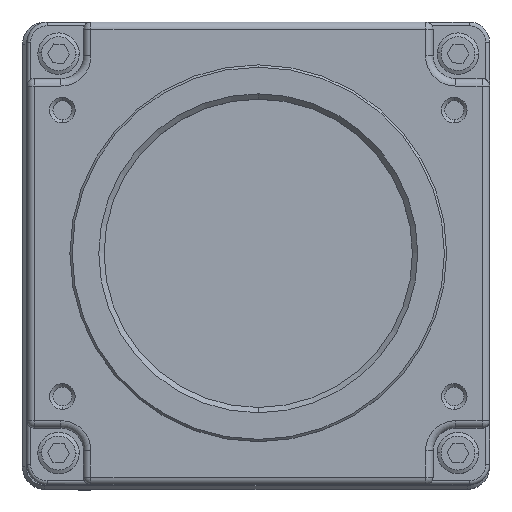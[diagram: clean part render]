
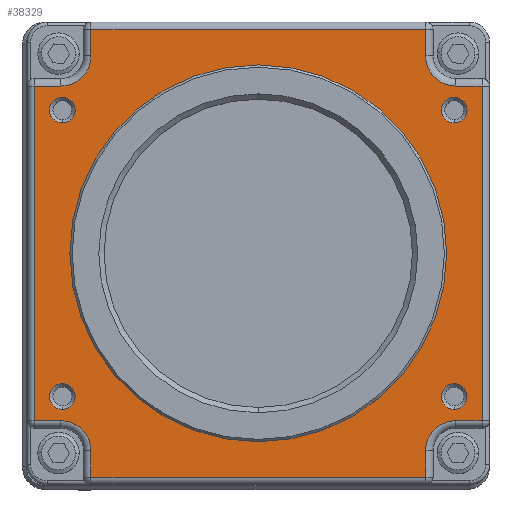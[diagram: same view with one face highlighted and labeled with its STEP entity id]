
A CAD part, top view. The second image highlights one B-rep face of the part: STEP entity #38329.
In plain terms, the highlighted planar face has unit normal (0, 0, 1).
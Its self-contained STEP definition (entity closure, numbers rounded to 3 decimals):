
#3109=CARTESIAN_POINT('',(4.8,4.8,22.3));
#3110=DIRECTION('',(0.,0.,-1.));
#3111=DIRECTION('',(0.,1.,0.));
#3112=AXIS2_PLACEMENT_3D('',#3109,#3110,#3111);
#3114=CARTESIAN_POINT('',(4.8,57.2,22.3));
#3115=DIRECTION('',(0.,0.,-1.));
#3116=DIRECTION('',(1.,0.,0.));
#3117=AXIS2_PLACEMENT_3D('',#3114,#3115,#3116);
#3119=CARTESIAN_POINT('',(57.2,57.2,22.3));
#3120=DIRECTION('',(0.,0.,-1.));
#3121=DIRECTION('',(0.,-1.,0.));
#3122=AXIS2_PLACEMENT_3D('',#3119,#3120,#3121);
#3124=CARTESIAN_POINT('',(57.2,4.8,22.3));
#3125=DIRECTION('',(0.,0.,-1.));
#3126=DIRECTION('',(-1.,0.,0.));
#3127=AXIS2_PLACEMENT_3D('',#3124,#3125,#3126);
#3129=CARTESIAN_POINT('',(31.,31.,22.3));
#3130=DIRECTION('',(0.,0.,-1.));
#3131=DIRECTION('',(0.,1.,0.));
#3132=AXIS2_PLACEMENT_3D('',#3129,#3130,#3131);
#3134=CARTESIAN_POINT('',(31.,31.,22.3));
#3135=DIRECTION('',(0.,0.,-1.));
#3136=DIRECTION('',(0.,-1.,0.));
#3137=AXIS2_PLACEMENT_3D('',#3134,#3135,#3136);
#3139=CARTESIAN_POINT('',(5.,50.,22.3));
#3140=DIRECTION('',(0.,0.,-1.));
#3141=DIRECTION('',(0.,1.,0.));
#3142=AXIS2_PLACEMENT_3D('',#3139,#3140,#3141);
#3144=CARTESIAN_POINT('',(5.,50.,22.3));
#3145=DIRECTION('',(0.,0.,-1.));
#3146=DIRECTION('',(0.,-1.,0.));
#3147=AXIS2_PLACEMENT_3D('',#3144,#3145,#3146);
#3149=CARTESIAN_POINT('',(5.,12.,22.3));
#3150=DIRECTION('',(0.,0.,-1.));
#3151=DIRECTION('',(0.,1.,0.));
#3152=AXIS2_PLACEMENT_3D('',#3149,#3150,#3151);
#3154=CARTESIAN_POINT('',(5.,12.,22.3));
#3155=DIRECTION('',(0.,0.,-1.));
#3156=DIRECTION('',(0.,-1.,0.));
#3157=AXIS2_PLACEMENT_3D('',#3154,#3155,#3156);
#3159=CARTESIAN_POINT('',(57.,50.,22.3));
#3160=DIRECTION('',(0.,0.,-1.));
#3161=DIRECTION('',(0.,-1.,0.));
#3162=AXIS2_PLACEMENT_3D('',#3159,#3160,#3161);
#3164=CARTESIAN_POINT('',(57.,50.,22.3));
#3165=DIRECTION('',(0.,0.,-1.));
#3166=DIRECTION('',(0.,1.,0.));
#3167=AXIS2_PLACEMENT_3D('',#3164,#3165,#3166);
#3169=CARTESIAN_POINT('',(57.,12.,22.3));
#3170=DIRECTION('',(0.,0.,-1.));
#3171=DIRECTION('',(0.,-1.,0.));
#3172=AXIS2_PLACEMENT_3D('',#3169,#3170,#3171);
#3174=CARTESIAN_POINT('',(57.,12.,22.3));
#3175=DIRECTION('',(0.,0.,-1.));
#3176=DIRECTION('',(0.,1.,0.));
#3177=AXIS2_PLACEMENT_3D('',#3174,#3175,#3176);
#3179=DIRECTION('',(1.,0.,0.));
#3180=VECTOR('',#3179,44.4);
#3181=CARTESIAN_POINT('',(8.8,1.3,22.3));
#3182=LINE('',#3181,#3180);
#3298=DIRECTION('',(1.,0.,0.));
#3299=VECTOR('',#3298,3.5);
#3300=CARTESIAN_POINT('',(57.2,8.8,22.3));
#3301=LINE('',#3300,#3299);
#3317=DIRECTION('',(0.,1.,0.));
#3318=VECTOR('',#3317,44.4);
#3319=CARTESIAN_POINT('',(60.7,8.8,22.3));
#3320=LINE('',#3319,#3318);
#3340=DIRECTION('',(-1.,0.,0.));
#3341=VECTOR('',#3340,3.5);
#3342=CARTESIAN_POINT('',(60.7,53.2,22.3));
#3343=LINE('',#3342,#3341);
#3367=DIRECTION('',(0.,1.,0.));
#3368=VECTOR('',#3367,3.5);
#3369=CARTESIAN_POINT('',(53.2,57.2,22.3));
#3370=LINE('',#3369,#3368);
#3596=DIRECTION('',(-1.,0.,0.));
#3597=VECTOR('',#3596,44.4);
#3598=CARTESIAN_POINT('',(53.2,60.7,22.3));
#3599=LINE('',#3598,#3597);
#3619=DIRECTION('',(0.,-1.,0.));
#3620=VECTOR('',#3619,3.5);
#3621=CARTESIAN_POINT('',(8.8,60.7,22.3));
#3622=LINE('',#3621,#3620);
#3680=DIRECTION('',(0.,1.,0.));
#3681=VECTOR('',#3680,3.5);
#3682=CARTESIAN_POINT('',(53.2,1.3,22.3));
#3683=LINE('',#3682,#3681);
#3835=DIRECTION('',(0.,-1.,0.));
#3836=VECTOR('',#3835,3.5);
#3837=CARTESIAN_POINT('',(8.8,4.8,22.3));
#3838=LINE('',#3837,#3836);
#3854=DIRECTION('',(1.,0.,0.));
#3855=VECTOR('',#3854,3.5);
#3856=CARTESIAN_POINT('',(1.3,8.8,22.3));
#3857=LINE('',#3856,#3855);
#3910=DIRECTION('',(0.,-1.,0.));
#3911=VECTOR('',#3910,44.4);
#3912=CARTESIAN_POINT('',(1.3,53.2,22.3));
#3913=LINE('',#3912,#3911);
#3937=DIRECTION('',(-1.,0.,0.));
#3938=VECTOR('',#3937,3.5);
#3939=CARTESIAN_POINT('',(4.8,53.2,22.3));
#3940=LINE('',#3939,#3938);
#29419=CARTESIAN_POINT('',(31.,6.,22.3));
#29420=VERTEX_POINT('',#29419);
#29421=CARTESIAN_POINT('',(31.,56.,22.3));
#29422=VERTEX_POINT('',#29421);
#29423=CARTESIAN_POINT('',(8.8,1.3,22.3));
#29424=CARTESIAN_POINT('',(53.2,1.3,22.3));
#29425=VERTEX_POINT('',#29423);
#29426=VERTEX_POINT('',#29424);
#29427=CARTESIAN_POINT('',(8.8,4.8,22.3));
#29428=VERTEX_POINT('',#29427);
#29429=CARTESIAN_POINT('',(4.8,8.8,22.3));
#29430=VERTEX_POINT('',#29429);
#29431=CARTESIAN_POINT('',(1.3,8.8,22.3));
#29432=VERTEX_POINT('',#29431);
#29433=CARTESIAN_POINT('',(1.3,53.2,22.3));
#29434=VERTEX_POINT('',#29433);
#29435=CARTESIAN_POINT('',(4.8,53.2,22.3));
#29436=VERTEX_POINT('',#29435);
#29437=CARTESIAN_POINT('',(8.8,57.2,22.3));
#29438=VERTEX_POINT('',#29437);
#29439=CARTESIAN_POINT('',(8.8,60.7,22.3));
#29440=VERTEX_POINT('',#29439);
#29441=CARTESIAN_POINT('',(53.2,60.7,22.3));
#29442=VERTEX_POINT('',#29441);
#29443=CARTESIAN_POINT('',(53.2,57.2,22.3));
#29444=VERTEX_POINT('',#29443);
#29445=CARTESIAN_POINT('',(57.2,53.2,22.3));
#29446=VERTEX_POINT('',#29445);
#29447=CARTESIAN_POINT('',(60.7,53.2,22.3));
#29448=VERTEX_POINT('',#29447);
#29449=CARTESIAN_POINT('',(60.7,8.8,22.3));
#29450=VERTEX_POINT('',#29449);
#29451=CARTESIAN_POINT('',(57.2,8.8,22.3));
#29452=VERTEX_POINT('',#29451);
#29453=CARTESIAN_POINT('',(53.2,4.8,22.3));
#29454=VERTEX_POINT('',#29453);
#29455=CARTESIAN_POINT('',(5.,51.7,22.3));
#29456=CARTESIAN_POINT('',(5.,48.3,22.3));
#29457=VERTEX_POINT('',#29455);
#29458=VERTEX_POINT('',#29456);
#29459=CARTESIAN_POINT('',(5.,13.7,22.3));
#29460=CARTESIAN_POINT('',(5.,10.3,22.3));
#29461=VERTEX_POINT('',#29459);
#29462=VERTEX_POINT('',#29460);
#29463=CARTESIAN_POINT('',(57.,48.3,22.3));
#29464=CARTESIAN_POINT('',(57.,51.7,22.3));
#29465=VERTEX_POINT('',#29463);
#29466=VERTEX_POINT('',#29464);
#29467=CARTESIAN_POINT('',(57.,10.3,22.3));
#29468=CARTESIAN_POINT('',(57.,13.7,22.3));
#29469=VERTEX_POINT('',#29467);
#29470=VERTEX_POINT('',#29468);
#38261=CARTESIAN_POINT('',(31.,31.,22.3));
#38262=DIRECTION('',(0.,0.,1.));
#38263=DIRECTION('',(0.,1.,0.));
#38264=AXIS2_PLACEMENT_3D('',#38261,#38262,#38263);
#38265=PLANE('',#38264);
#38267=ORIENTED_EDGE('',*,*,#38266,.F.);
#38269=ORIENTED_EDGE('',*,*,#38268,.F.);
#38271=ORIENTED_EDGE('',*,*,#38270,.F.);
#38273=ORIENTED_EDGE('',*,*,#38272,.F.);
#38275=ORIENTED_EDGE('',*,*,#38274,.F.);
#38277=ORIENTED_EDGE('',*,*,#38276,.F.);
#38278=ORIENTED_EDGE('',*,*,#38244,.F.);
#38280=ORIENTED_EDGE('',*,*,#38279,.F.);
#38282=ORIENTED_EDGE('',*,*,#38281,.F.);
#38284=ORIENTED_EDGE('',*,*,#38283,.F.);
#38286=ORIENTED_EDGE('',*,*,#38285,.F.);
#38288=ORIENTED_EDGE('',*,*,#38287,.F.);
#38290=ORIENTED_EDGE('',*,*,#38289,.F.);
#38292=ORIENTED_EDGE('',*,*,#38291,.F.);
#38294=ORIENTED_EDGE('',*,*,#38293,.F.);
#38296=ORIENTED_EDGE('',*,*,#38295,.F.);
#38297=EDGE_LOOP('',(#38267,#38269,#38271,#38273,#38275,#38277,#38278,#38280,
#38282,#38284,#38286,#38288,#38290,#38292,#38294,#38296));
#38298=FACE_OUTER_BOUND('',#38297,.F.);
#38300=ORIENTED_EDGE('',*,*,#38299,.F.);
#38302=ORIENTED_EDGE('',*,*,#38301,.F.);
#38303=EDGE_LOOP('',(#38300,#38302));
#38304=FACE_BOUND('',#38303,.F.);
#38306=ORIENTED_EDGE('',*,*,#38305,.F.);
#38308=ORIENTED_EDGE('',*,*,#38307,.F.);
#38309=EDGE_LOOP('',(#38306,#38308));
#38310=FACE_BOUND('',#38309,.F.);
#38312=ORIENTED_EDGE('',*,*,#38311,.F.);
#38314=ORIENTED_EDGE('',*,*,#38313,.F.);
#38315=EDGE_LOOP('',(#38312,#38314));
#38316=FACE_BOUND('',#38315,.F.);
#38318=ORIENTED_EDGE('',*,*,#38317,.F.);
#38320=ORIENTED_EDGE('',*,*,#38319,.F.);
#38321=EDGE_LOOP('',(#38318,#38320));
#38322=FACE_BOUND('',#38321,.F.);
#38324=ORIENTED_EDGE('',*,*,#38323,.F.);
#38326=ORIENTED_EDGE('',*,*,#38325,.F.);
#38327=EDGE_LOOP('',(#38324,#38326));
#38328=FACE_BOUND('',#38327,.F.);
#3113=CIRCLE('',#3112,4.);
#3118=CIRCLE('',#3117,4.);
#3123=CIRCLE('',#3122,4.);
#3128=CIRCLE('',#3127,4.);
#3133=CIRCLE('',#3132,25.);
#3138=CIRCLE('',#3137,25.);
#3143=CIRCLE('',#3142,1.7);
#3148=CIRCLE('',#3147,1.7);
#3153=CIRCLE('',#3152,1.7);
#3158=CIRCLE('',#3157,1.7);
#3163=CIRCLE('',#3162,1.7);
#3168=CIRCLE('',#3167,1.7);
#3173=CIRCLE('',#3172,1.7);
#3178=CIRCLE('',#3177,1.7);
#38244=EDGE_CURVE('',#29438,#29436,#3118,.T.);
#38266=EDGE_CURVE('',#29425,#29426,#3182,.T.);
#38268=EDGE_CURVE('',#29428,#29425,#3838,.T.);
#38270=EDGE_CURVE('',#29430,#29428,#3113,.T.);
#38272=EDGE_CURVE('',#29432,#29430,#3857,.T.);
#38274=EDGE_CURVE('',#29434,#29432,#3913,.T.);
#38276=EDGE_CURVE('',#29436,#29434,#3940,.T.);
#38279=EDGE_CURVE('',#29440,#29438,#3622,.T.);
#38281=EDGE_CURVE('',#29442,#29440,#3599,.T.);
#38283=EDGE_CURVE('',#29444,#29442,#3370,.T.);
#38285=EDGE_CURVE('',#29446,#29444,#3123,.T.);
#38287=EDGE_CURVE('',#29448,#29446,#3343,.T.);
#38289=EDGE_CURVE('',#29450,#29448,#3320,.T.);
#38291=EDGE_CURVE('',#29452,#29450,#3301,.T.);
#38293=EDGE_CURVE('',#29454,#29452,#3128,.T.);
#38295=EDGE_CURVE('',#29426,#29454,#3683,.T.);
#38299=EDGE_CURVE('',#29422,#29420,#3133,.T.);
#38301=EDGE_CURVE('',#29420,#29422,#3138,.T.);
#38305=EDGE_CURVE('',#29457,#29458,#3143,.T.);
#38307=EDGE_CURVE('',#29458,#29457,#3148,.T.);
#38311=EDGE_CURVE('',#29461,#29462,#3153,.T.);
#38313=EDGE_CURVE('',#29462,#29461,#3158,.T.);
#38317=EDGE_CURVE('',#29465,#29466,#3163,.T.);
#38319=EDGE_CURVE('',#29466,#29465,#3168,.T.);
#38323=EDGE_CURVE('',#29469,#29470,#3173,.T.);
#38325=EDGE_CURVE('',#29470,#29469,#3178,.T.);
#38329=ADVANCED_FACE('',(#38298,#38304,#38310,#38316,#38322,#38328),#38265,.T.);
